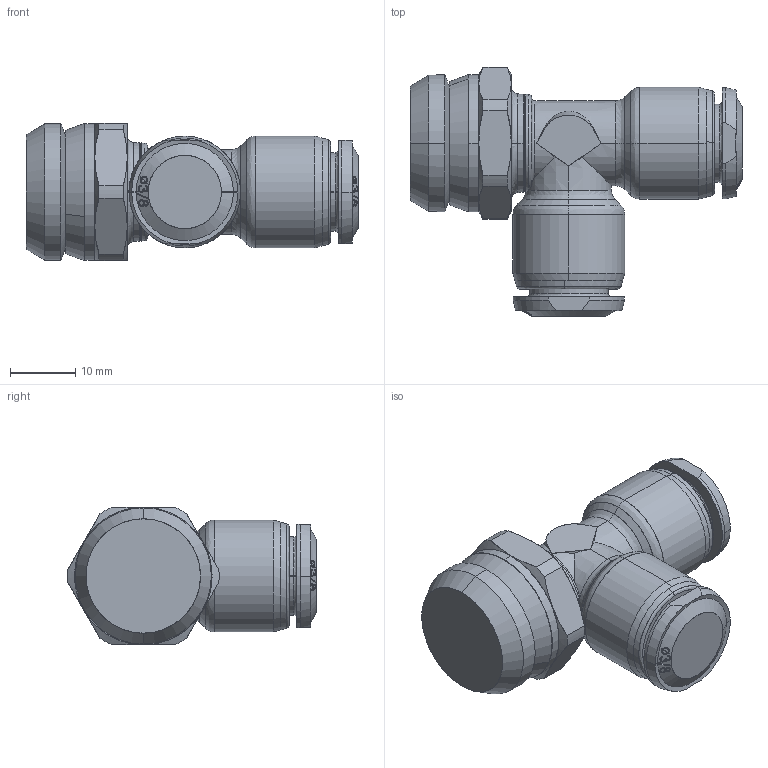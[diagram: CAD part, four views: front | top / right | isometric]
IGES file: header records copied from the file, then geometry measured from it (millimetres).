
Start section: SolidWorks IGES file using analytic representation for surfaces
Global section: file name: C:\Users\Cad01\Desktop\assiemi alfa\85222\8522300013A.igs; native system: SolidWorks 2012; preprocessor: SolidWorks 2012; author: Cad01; date: 121105.163652; units: millimetre
Bounding box: 50.8 x 38.1 x 21.03 mm (x, y, z)
Surface area: 5120.7 mm2 (no closed solid volume)
Topology: 0 solids, 0 shells, 270 faces, 3120 edges, 3120 vertices
Faces by surface type: bspline 173, revolution 97
